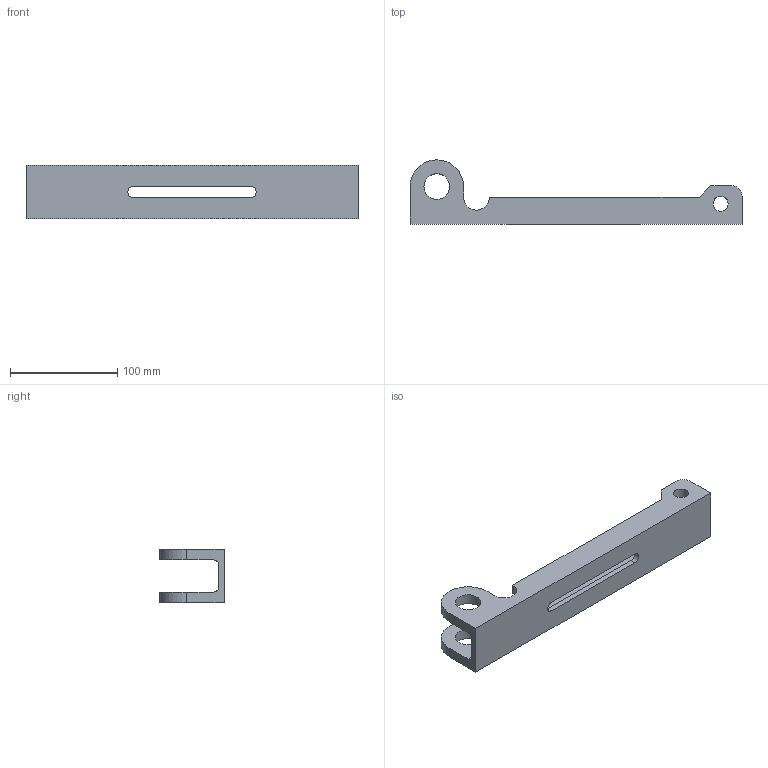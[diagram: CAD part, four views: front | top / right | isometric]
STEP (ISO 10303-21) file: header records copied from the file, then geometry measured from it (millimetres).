
FILE_DESCRIPTION(/* description */ ('CAx-IF Rec.Pracs.---Representation and Presentation of Product Manufacturing Information (PMI)---4.0---2014-10-13','CAx-IF Rec.Pracs.---3D Tessellated Geometry---0.4---2014-09-14','2;1'),/* implementation_level */ '2;1');
FILE_NAME(/* name */ 'korpus2',/* time_stamp */ '2020-03-20T17:21:59+01:00',/* author */ (''),/* organization */ (''),/* preprocessor_version */ 'ST-DEVELOPER v16.7',/* originating_system */ 'SIEMENS PLM Software NX 1847',/* authorisation */ $);
FILE_SCHEMA (('AP242_MANAGED_MODEL_BASED_3D_ENGINEERING_MIM_LF { 1 0 10303 442 1 1 4 }'));
Length unit declared in the file: millimetre
Products named in the file (1): korpus2
Bounding box: 310 x 60 x 50 mm (x, y, z)
Volume: 219078.9 mm3; surface area: 65677.7 mm2
Topology: 1 solids, 1 shells, 32 faces, 90 edges, 60 vertices
Faces by surface type: plane 18, cylinder 14
Full cylindrical faces by diameter (mm): 14 x2, 24 x2
Entity records: 1179 total; most frequent: CARTESIAN_POINT 203, DIRECTION 196, ORIENTED_EDGE 172, EDGE_CURVE 86, AXIS2_PLACEMENT_3D 77, VERTEX_POINT 60, LINE 58, VECTOR 58
